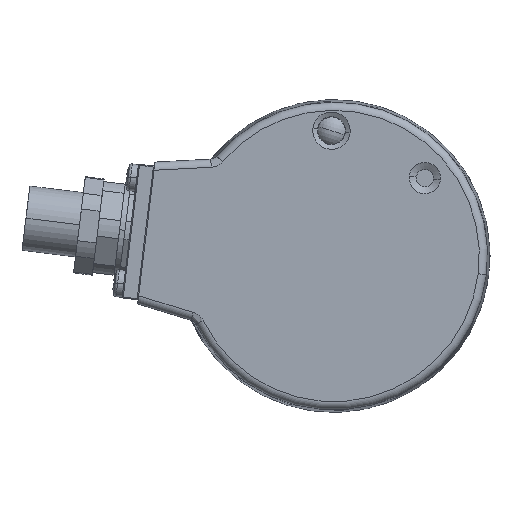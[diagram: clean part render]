
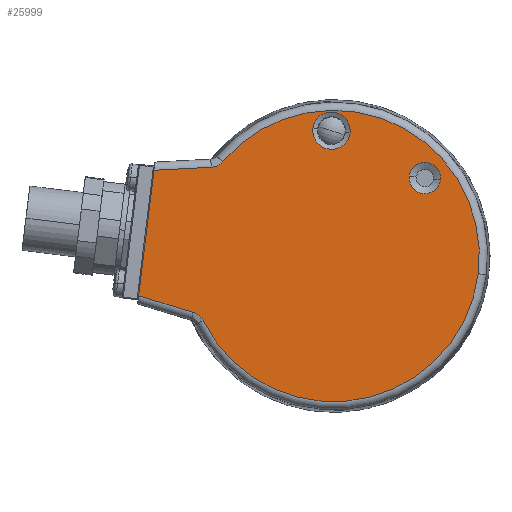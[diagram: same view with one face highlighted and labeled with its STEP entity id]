
A CAD part, left-side view. The second image highlights one B-rep face of the part: STEP entity #25999.
In plain terms, the highlighted planar face has unit normal (-1, 0, 0).
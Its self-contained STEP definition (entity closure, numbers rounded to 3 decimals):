
#335 = DIRECTION ( 'NONE',  ( 0., -0.993, -0.122 ) ) ;
#485 = CARTESIAN_POINT ( 'NONE',  ( -30.5, -16.919, 14.45 ) ) ;
#658 = EDGE_CURVE ( 'NONE', #804, #5501, #16084, .T. ) ;
#773 = DIRECTION ( 'NONE',  ( 0., -0.993, -0.122 ) ) ;
#804 = VERTEX_POINT ( 'NONE', #3370 ) ;
#942 = EDGE_CURVE ( 'NONE', #3166, #11437, #21979, .T. ) ;
#980 = EDGE_CURVE ( 'NONE', #5501, #804, #10147, .T. ) ;
#1172 = CARTESIAN_POINT ( 'NONE',  ( -30.5, 21.716, 16.677 ) ) ;
#1741 = CARTESIAN_POINT ( 'NONE',  ( -30.5, 26.015, -10.478 ) ) ;
#1802 = VERTEX_POINT ( 'NONE', #22119 ) ;
#1931 = EDGE_CURVE ( 'NONE', #1802, #12598, #6537, .T. ) ;
#2527 = CARTESIAN_POINT ( 'NONE',  ( -30.5, 0.406, 23.246 ) ) ;
#2565 = DIRECTION ( 'NONE',  ( 0., -0.993, -0.122 ) ) ;
#2646 = ORIENTED_EDGE ( 'NONE', *, *, #25722, .T. ) ;
#3096 = VECTOR ( 'NONE', #22944, 1000. ) ;
#3166 = VERTEX_POINT ( 'NONE', #4513 ) ;
#3255 = CARTESIAN_POINT ( 'NONE',  ( -30.5, 21.178, 16.967 ) ) ;
#3291 = CARTESIAN_POINT ( 'NONE',  ( -30.5, 33.31, 15.905 ) ) ;
#3370 = CARTESIAN_POINT ( 'NONE',  ( -30.5, -3.034, 22.824 ) ) ;
#3660 = EDGE_CURVE ( 'NONE', #12953, #19384, #17897, .T. ) ;
#3777 = CARTESIAN_POINT ( 'NONE',  ( -30.5, 0., 0. ) ) ;
#3845 = DIRECTION ( 'NONE',  ( 1., 0., 0. ) ) ;
#4296 = EDGE_CURVE ( 'NONE', #3166, #23846, #22796, .T. ) ;
#4310 = CARTESIAN_POINT ( 'NONE',  ( -30.5, 20.579, 17.512 ) ) ;
#4513 = CARTESIAN_POINT ( 'NONE',  ( -30.5, 36.168, -7.374 ) ) ;
#4621 = DIRECTION ( 'NONE',  ( 0., -0.993, -0.122 ) ) ;
#5283 = B_SPLINE_CURVE_WITH_KNOTS ( 'NONE', 3,
 ( #5846, #18389, #7962, #22614, #10041, #24690, #12141, #26768, #14270, #1741 ),
 .UNSPECIFIED., .F., .F.,
 ( 4, 2, 2, 2, 4 ),
 ( 0., 0.001, 0.001, 0.002, 0.002 ),
 .UNSPECIFIED. ) ;
#5358 = CARTESIAN_POINT ( 'NONE',  ( -30.5, 20.712, 17.356 ) ) ;
#5385 = ORIENTED_EDGE ( 'NONE', *, *, #1931, .T. ) ;
#5406 = ORIENTED_EDGE ( 'NONE', *, *, #15065, .F. ) ;
#5501 = VERTEX_POINT ( 'NONE', #17240 ) ;
#5846 = CARTESIAN_POINT ( 'NONE',  ( -30.5, 24.205, -12.014 ) ) ;
#5881 = DIRECTION ( 'NONE',  ( 0., -0.993, -0.122 ) ) ;
#6011 = CARTESIAN_POINT ( 'NONE',  ( -30.5, 24.205, -12.014 ) ) ;
#6537 = CIRCLE ( 'NONE', #26799, 27.022 ) ;
#6729 = AXIS2_PLACEMENT_3D ( 'NONE', #485, #15103, #2565 ) ;
#6914 = CARTESIAN_POINT ( 'NONE',  ( -30.5, -14.042, 14.804 ) ) ;
#7228 = DIRECTION ( 'NONE',  ( 1., 0., 0. ) ) ;
#7918 = DIRECTION ( 'NONE',  ( 0., -0.956, -0.292 ) ) ;
#7962 = CARTESIAN_POINT ( 'NONE',  ( -30.5, 24.406, -11.656 ) ) ;
#8582 = CARTESIAN_POINT ( 'NONE',  ( -30.5, 36.354, -8.886 ) ) ;
#9111 = VERTEX_POINT ( 'NONE', #6011 ) ;
#9261 = EDGE_CURVE ( 'NONE', #19384, #12953, #19963, .T. ) ;
#9473 = CARTESIAN_POINT ( 'NONE',  ( -30.5, 22.708, 16.461 ) ) ;
#9540 = ORIENTED_EDGE ( 'NONE', *, *, #942, .F. ) ;
#10041 = CARTESIAN_POINT ( 'NONE',  ( -30.5, 24.797, -11.19 ) ) ;
#10065 = ORIENTED_EDGE ( 'NONE', *, *, #980, .T. ) ;
#10147 = CIRCLE ( 'NONE', #22936, 3.466 ) ;
#10460 = AXIS2_PLACEMENT_3D ( 'NONE', #25378, #12847, #335 ) ;
#10810 = FACE_BOUND ( 'NONE', #11391, .T. ) ;
#11391 = EDGE_LOOP ( 'NONE', ( #10065, #14472 ) ) ;
#11409 = ORIENTED_EDGE ( 'NONE', *, *, #4296, .T. ) ;
#11437 = VERTEX_POINT ( 'NONE', #3291 ) ;
#11469 = FACE_OUTER_BOUND ( 'NONE', #23034, .T. ) ;
#11613 = VECTOR ( 'NONE', #7918, 1000. ) ;
#12116 = VECTOR ( 'NONE', #19118, 1000. ) ;
#12132 = EDGE_LOOP ( 'NONE', ( #24942, #17418 ) ) ;
#12141 = CARTESIAN_POINT ( 'NONE',  ( -30.5, 25.277, -10.811 ) ) ;
#12167 = PLANE ( 'NONE',  #22304 ) ;
#12395 = CARTESIAN_POINT ( 'NONE',  ( -30.5, 33.046, 15.919 ) ) ;
#12485 = CIRCLE ( 'NONE', #14387, 27.022 ) ;
#12598 = VERTEX_POINT ( 'NONE', #4310 ) ;
#12847 = DIRECTION ( 'NONE',  ( 1., 0., 0. ) ) ;
#12899 = EDGE_CURVE ( 'NONE', #9111, #23846, #5283, .T. ) ;
#12953 = VERTEX_POINT ( 'NONE', #13349 ) ;
#13290 = DIRECTION ( 'NONE',  ( -1., 0., 0. ) ) ;
#13349 = CARTESIAN_POINT ( 'NONE',  ( -30.5, -19.796, 14.097 ) ) ;
#13683 = CARTESIAN_POINT ( 'NONE',  ( -30.5, 21.906, 16.606 ) ) ;
#14270 = CARTESIAN_POINT ( 'NONE',  ( -30.5, 25.819, -10.538 ) ) ;
#14294 = CARTESIAN_POINT ( 'NONE',  ( -30.5, 0., 0. ) ) ;
#14387 = AXIS2_PLACEMENT_3D ( 'NONE', #25803, #13290, #773 ) ;
#14472 = ORIENTED_EDGE ( 'NONE', *, *, #658, .T. ) ;
#15065 = EDGE_CURVE ( 'NONE', #19843, #12598, #21081, .T. ) ;
#15103 = DIRECTION ( 'NONE',  ( 1., 0., 0. ) ) ;
#15789 = CARTESIAN_POINT ( 'NONE',  ( -30.5, 21.352, 16.857 ) ) ;
#16084 = CIRCLE ( 'NONE', #19263, 3.466 ) ;
#17159 = DIRECTION ( 'NONE',  ( 1., 0., 0. ) ) ;
#17176 = CARTESIAN_POINT ( 'NONE',  ( -30.5, 26.015, -10.478 ) ) ;
#17240 = CARTESIAN_POINT ( 'NONE',  ( -30.5, 3.846, 23.669 ) ) ;
#17418 = ORIENTED_EDGE ( 'NONE', *, *, #3660, .T. ) ;
#17897 = CIRCLE ( 'NONE', #6729, 2.899 ) ;
#17898 = CARTESIAN_POINT ( 'NONE',  ( -30.5, 20.859, 17.216 ) ) ;
#18389 = CARTESIAN_POINT ( 'NONE',  ( -30.5, 24.296, -11.83 ) ) ;
#18434 = DIRECTION ( 'NONE',  ( -1., 0., 0. ) ) ;
#18511 = DIRECTION ( 'NONE',  ( 0., -0.993, -0.122 ) ) ;
#19118 = DIRECTION ( 'NONE',  ( 0., -0.122, 0.993 ) ) ;
#19151 = LINE ( 'NONE', #12395, #3096 ) ;
#19263 = AXIS2_PLACEMENT_3D ( 'NONE', #19765, #7228, #21870 ) ;
#19384 = VERTEX_POINT ( 'NONE', #6914 ) ;
#19765 = CARTESIAN_POINT ( 'NONE',  ( -30.5, 0.406, 23.246 ) ) ;
#19843 = VERTEX_POINT ( 'NONE', #26069 ) ;
#19963 = CIRCLE ( 'NONE', #10460, 2.899 ) ;
#20022 = CARTESIAN_POINT ( 'NONE',  ( -30.5, 20.579, 17.512 ) ) ;
#21081 = B_SPLINE_CURVE_WITH_KNOTS ( 'NONE', 3,
 ( #9473, #24108, #26200, #13683, #1172, #15789, #3255, #17898, #5358, #20022 ),
 .UNSPECIFIED., .F., .F.,
 ( 4, 2, 2, 2, 4 ),
 ( 0., 0.001, 0.001, 0.002, 0.002 ),
 .UNSPECIFIED. ) ;
#21870 = DIRECTION ( 'NONE',  ( 0., -0.993, -0.122 ) ) ;
#21979 = LINE ( 'NONE', #8582, #12116 ) ;
#22003 = FACE_BOUND ( 'NONE', #12132, .T. ) ;
#22119 = CARTESIAN_POINT ( 'NONE',  ( -30.5, -26.821, -3.293 ) ) ;
#22304 = AXIS2_PLACEMENT_3D ( 'NONE', #14294, #3845, #18511 ) ;
#22614 = CARTESIAN_POINT ( 'NONE',  ( -30.5, 24.657, -11.336 ) ) ;
#22796 = LINE ( 'NONE', #26728, #11613 ) ;
#22936 = AXIS2_PLACEMENT_3D ( 'NONE', #2527, #17159, #4621 ) ;
#22944 = DIRECTION ( 'NONE',  ( 0., 0.999, -0.052 ) ) ;
#23034 = EDGE_LOOP ( 'NONE', ( #5406, #24395, #9540, #11409, #25330, #2646, #5385 ) ) ;
#23846 = VERTEX_POINT ( 'NONE', #17176 ) ;
#24108 = CARTESIAN_POINT ( 'NONE',  ( -30.5, 22.503, 16.471 ) ) ;
#24395 = ORIENTED_EDGE ( 'NONE', *, *, #25088, .T. ) ;
#24690 = CARTESIAN_POINT ( 'NONE',  ( -30.5, 25.107, -10.927 ) ) ;
#24942 = ORIENTED_EDGE ( 'NONE', *, *, #9261, .T. ) ;
#25088 = EDGE_CURVE ( 'NONE', #19843, #11437, #19151, .T. ) ;
#25330 = ORIENTED_EDGE ( 'NONE', *, *, #12899, .F. ) ;
#25378 = CARTESIAN_POINT ( 'NONE',  ( -30.5, -16.919, 14.45 ) ) ;
#25722 = EDGE_CURVE ( 'NONE', #9111, #1802, #12485, .T. ) ;
#25803 = CARTESIAN_POINT ( 'NONE',  ( -30.5, 0., 0. ) ) ;
#25999 = ADVANCED_FACE ( 'NONE', ( #10810, #22003, #11469 ), #12167, .F. ) ;
#26069 = CARTESIAN_POINT ( 'NONE',  ( -30.5, 22.708, 16.461 ) ) ;
#26200 = CARTESIAN_POINT ( 'NONE',  ( -30.5, 22.299, 16.503 ) ) ;
#26728 = CARTESIAN_POINT ( 'NONE',  ( -30.5, 25.362, -10.678 ) ) ;
#26768 = CARTESIAN_POINT ( 'NONE',  ( -30.5, 25.632, -10.617 ) ) ;
#26799 = AXIS2_PLACEMENT_3D ( 'NONE', #3777, #18434, #5881 ) ;
